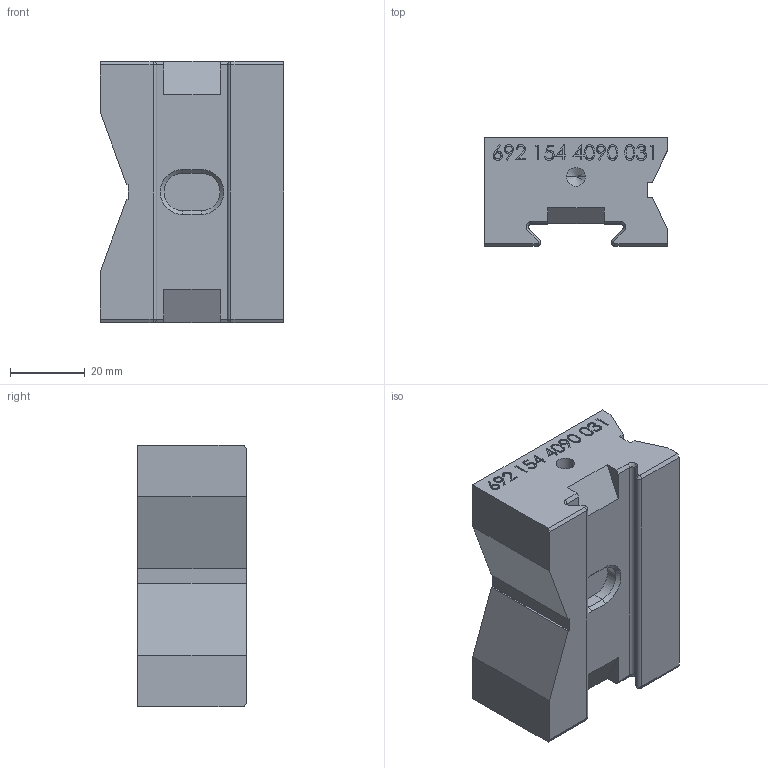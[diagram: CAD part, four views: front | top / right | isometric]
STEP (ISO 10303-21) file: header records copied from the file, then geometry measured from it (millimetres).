
FILE_DESCRIPTION (( 'STEP AP214' ), '1' );
FILE_NAME ('6921544090031.STEP', '2017-12-21T12:56:54', ( '' ), ( '' ), 'SwSTEP 2.0', 'SolidWorks 2016', '' );
FILE_SCHEMA (( 'AUTOMOTIVE_DESIGN' ));
Length unit declared in the file: millimetre
Products named in the file (1): 6921544090031
Bounding box: 49 x 29 x 70 mm (x, y, z)
Volume: 79646.5 mm3; surface area: 15445.7 mm2
Topology: 1 solids, 1 shells, 241 faces, 625 edges, 406 vertices
Faces by surface type: plane 128, bspline 82, cone 18, cylinder 13
Entity records: 12411 total; most frequent: CARTESIAN_POINT 6991, ORIENTED_EDGE 1242, DIRECTION 819, EDGE_CURVE 621, VECTOR 415, LINE 415, VERTEX_POINT 406, EDGE_LOOP 265
